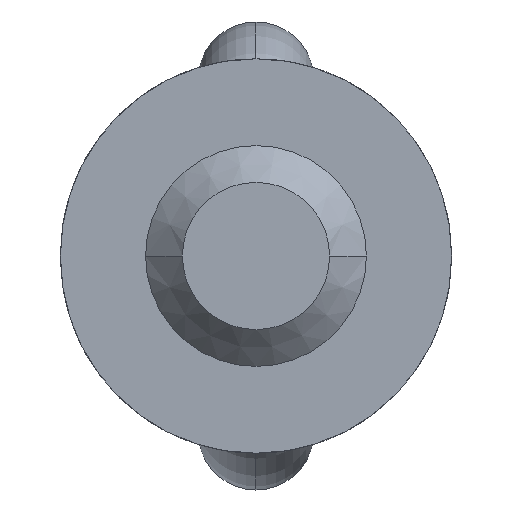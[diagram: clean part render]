
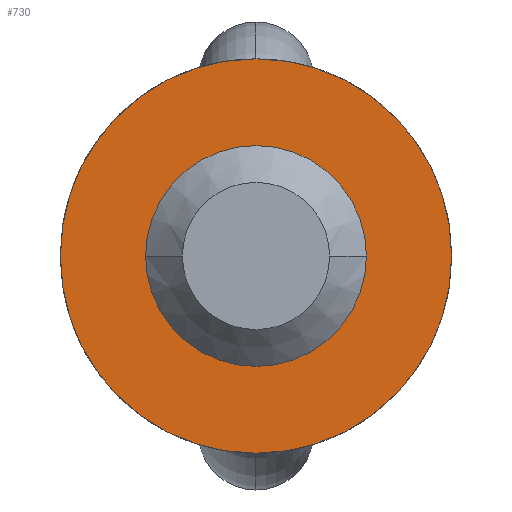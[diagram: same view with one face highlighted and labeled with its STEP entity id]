
A CAD part, front view. The second image highlights one B-rep face of the part: STEP entity #730.
In plain terms, the highlighted planar face has unit normal (0, -1, 0).
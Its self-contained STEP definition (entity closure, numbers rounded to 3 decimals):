
#730=ADVANCED_FACE('',(#1495,#1496),#1497,.F.);
#1495=FACE_OUTER_BOUND('',#5523,.T.);
#1496=FACE_BOUND('',#5524,.T.);
#1497=PLANE('',#5525);
#5523=EDGE_LOOP('',(#9611,#9612,#9613,#9614));
#5524=EDGE_LOOP('',(#9615,#9616,#9617));
#5525=AXIS2_PLACEMENT_3D('',#9618,#9619,#9620);
#9611=ORIENTED_EDGE('',*,*,#10831,.F.);
#9612=ORIENTED_EDGE('',*,*,#10781,.T.);
#9613=ORIENTED_EDGE('',*,*,#10832,.T.);
#9614=ORIENTED_EDGE('',*,*,#10769,.F.);
#9615=ORIENTED_EDGE('',*,*,#10802,.F.);
#9616=ORIENTED_EDGE('',*,*,#10801,.F.);
#9617=ORIENTED_EDGE('',*,*,#10827,.F.);
#9618=CARTESIAN_POINT('',(0.0,-66.8,0.0));
#9619=DIRECTION('',(0.0,1.0,0.0));
#9620=DIRECTION('',(1.0,0.0,-0.0));
#10769=EDGE_CURVE('',#12136,#12139,#12140,.T.);
#10781=EDGE_CURVE('',#12162,#12159,#12163,.T.);
#10801=EDGE_CURVE('',#12197,#12199,#12200,.T.);
#10802=EDGE_CURVE('',#12199,#12194,#12201,.T.);
#10827=EDGE_CURVE('',#12194,#12197,#12234,.T.);
#10831=EDGE_CURVE('',#12162,#12136,#12238,.T.);
#10832=EDGE_CURVE('',#12159,#12139,#12239,.T.);
#12136=VERTEX_POINT('',#18593);
#12139=VERTEX_POINT('',#18597);
#12140=CIRCLE('',#18598,37.182);
#12159=VERTEX_POINT('',#18726);
#12162=VERTEX_POINT('',#18730);
#12163=CIRCLE('',#18731,37.182);
#12194=VERTEX_POINT('',#18867);
#12197=VERTEX_POINT('',#18870);
#12199=VERTEX_POINT('',#18872);
#12200=CIRCLE('',#18873,21.0);
#12201=CIRCLE('',#18874,21.0);
#12234=CIRCLE('',#18913,21.0);
#12238=CIRCLE('',#18917,37.182);
#12239=CIRCLE('',#18918,37.182);
#18593=CARTESIAN_POINT('',(0.,-66.8,37.5));
#18597=CARTESIAN_POINT('',(37.18,-66.8,0.0));
#18598=AXIS2_PLACEMENT_3D('',#21336,#21337,#21338);
#18726=CARTESIAN_POINT('',(0.,-66.8,-37.5));
#18730=CARTESIAN_POINT('',(-37.18,-66.8,0.0));
#18731=AXIS2_PLACEMENT_3D('',#21345,#21346,#21347);
#18867=CARTESIAN_POINT('',(0.,-66.8,21.0));
#18870=CARTESIAN_POINT('',(0.,-66.8,-21.0));
#18872=CARTESIAN_POINT('',(21.0,-66.8,0.));
#18873=AXIS2_PLACEMENT_3D('',#21375,#21376,#21377);
#18874=AXIS2_PLACEMENT_3D('',#21378,#21379,#21380);
#18913=AXIS2_PLACEMENT_3D('',#21414,#21415,#21416);
#18917=AXIS2_PLACEMENT_3D('',#21420,#21421,#21422);
#18918=AXIS2_PLACEMENT_3D('',#21423,#21424,#21425);
#21336=CARTESIAN_POINT('',(0.,-66.8,0.318));
#21337=DIRECTION('',(0.0,1.0,0.0));
#21338=DIRECTION('',(0.0,0.0,1.0));
#21345=CARTESIAN_POINT('',(0.,-66.8,-0.318));
#21346=DIRECTION('',(0.0,-1.0,0.0));
#21347=DIRECTION('',(0.0,0.0,-1.0));
#21375=CARTESIAN_POINT('',(0.0,-66.8,0.0));
#21376=DIRECTION('',(0.0,-1.0,0.0));
#21377=DIRECTION('',(-1.0,0.0,0.0));
#21378=CARTESIAN_POINT('',(0.0,-66.8,0.0));
#21379=DIRECTION('',(0.0,-1.0,0.0));
#21380=DIRECTION('',(-1.0,0.0,0.0));
#21414=CARTESIAN_POINT('',(0.0,-66.8,0.0));
#21415=DIRECTION('',(0.0,-1.0,0.0));
#21416=DIRECTION('',(-1.0,0.0,0.0));
#21420=CARTESIAN_POINT('',(0.,-66.8,0.318));
#21421=DIRECTION('',(0.0,1.0,0.0));
#21422=DIRECTION('',(0.0,0.0,1.0));
#21423=CARTESIAN_POINT('',(0.,-66.8,-0.318));
#21424=DIRECTION('',(0.0,-1.0,0.0));
#21425=DIRECTION('',(0.0,0.0,-1.0));
